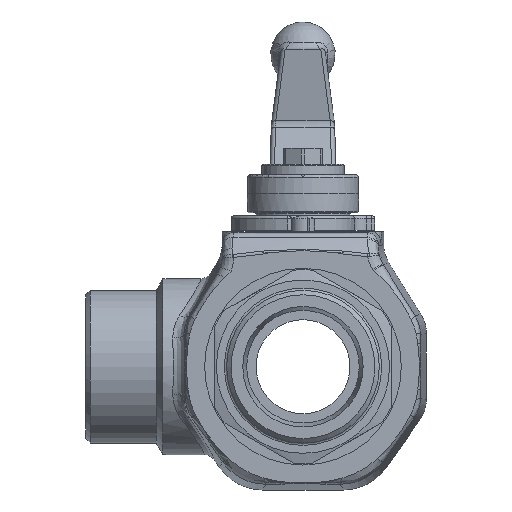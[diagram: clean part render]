
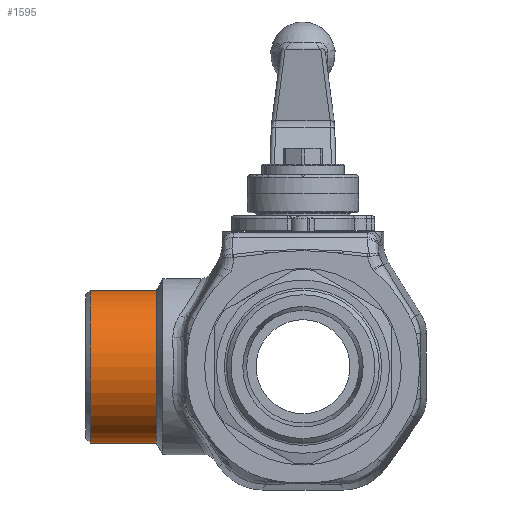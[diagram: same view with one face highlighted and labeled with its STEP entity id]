
A CAD part, front view. The second image highlights one B-rep face of the part: STEP entity #1595.
In plain terms, the highlighted cylindrical face has radius 26 mm (diameter 52 mm), a full revolution.
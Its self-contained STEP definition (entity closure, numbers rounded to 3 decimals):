
#1595 = ADVANCED_FACE( '', ( #3154, #3155 ), #3156, .T. );
#3154 = FACE_OUTER_BOUND( '', #8113, .T. );
#3155 = FACE_OUTER_BOUND( '', #8114, .T. );
#3156 = CYLINDRICAL_SURFACE( '', #8115, 26. );
#8113 = EDGE_LOOP( '', ( #11908 ) );
#8114 = EDGE_LOOP( '', ( #11909 ) );
#8115 = AXIS2_PLACEMENT_3D( '', #11910, #11911, #11912 );
#11908 = ORIENTED_EDGE( '', *, *, #13484, .T. );
#11909 = ORIENTED_EDGE( '', *, *, #13258, .T. );
#11910 = CARTESIAN_POINT( '', ( 57., 0., 0. ) );
#11911 = DIRECTION( '', ( 1., 0., 0. ) );
#11912 = DIRECTION( '', ( 0., 0., 1. ) );
#13258 = EDGE_CURVE( '', #15473, #15473, #15474, .T. );
#13484 = EDGE_CURVE( '', #15711, #15711, #15712, .T. );
#15473 = VERTEX_POINT( '', #22091 );
#15474 = CIRCLE( '', #22092, 26. );
#15711 = VERTEX_POINT( '', #22760 );
#15712 = CIRCLE( '', #22761, 26. );
#22091 = CARTESIAN_POINT( '', ( -50., 0., 26. ) );
#22092 = AXIS2_PLACEMENT_3D( '', #24285, #24286, #24287 );
#22760 = CARTESIAN_POINT( '', ( -72.5, 0., -26. ) );
#22761 = AXIS2_PLACEMENT_3D( '', #24440, #24441, #24442 );
#24285 = CARTESIAN_POINT( '', ( -50., 0., 0. ) );
#24286 = DIRECTION( '', ( -1., 0., 0. ) );
#24287 = DIRECTION( '', ( 0., 0., 1. ) );
#24440 = CARTESIAN_POINT( '', ( -72.5, 0., 0. ) );
#24441 = DIRECTION( '', ( 1., 0., 0. ) );
#24442 = DIRECTION( '', ( 0., 0., -1. ) );
